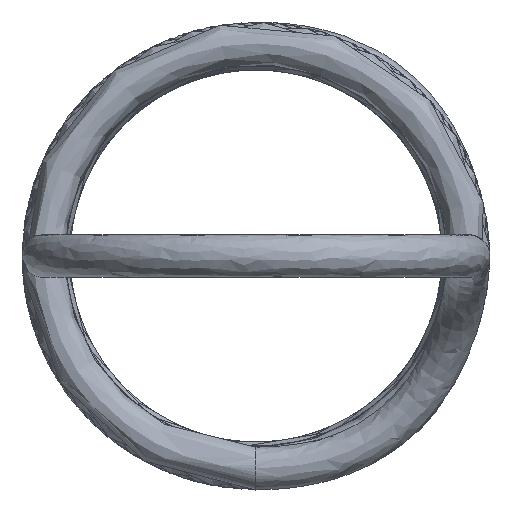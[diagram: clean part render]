
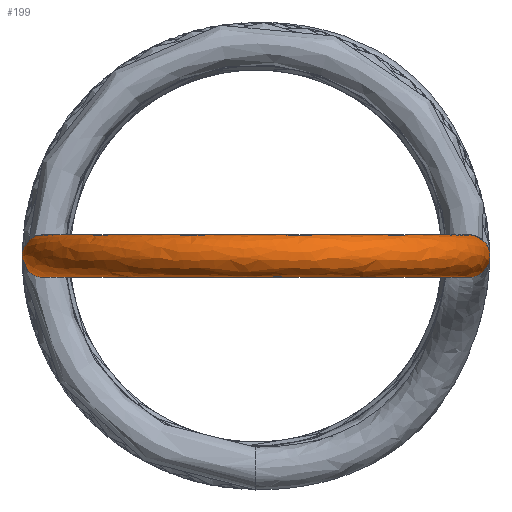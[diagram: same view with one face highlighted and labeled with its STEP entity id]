
A CAD part, front view. The second image highlights one B-rep face of the part: STEP entity #199.
In plain terms, the highlighted free-form (B-spline) face has degree [2, 2] with [9, 7] control points.
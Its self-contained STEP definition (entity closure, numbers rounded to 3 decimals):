
#15=(
BOUNDED_SURFACE()
B_SPLINE_SURFACE(2,2,((#806,#807,#808,#809,#810,#811,#812),(#813,#814,#815,
#816,#817,#818,#819),(#820,#821,#822,#823,#824,#825,#826),(#827,#828,#829,
#830,#831,#832,#833),(#834,#835,#836,#837,#838,#839,#840),(#841,#842,#843,
#844,#845,#846,#847),(#848,#849,#850,#851,#852,#853,#854),(#855,#856,#857,
#858,#859,#860,#861),(#862,#863,#864,#865,#866,#867,#868)),
 .UNSPECIFIED.,.T.,.F.,.F.)
B_SPLINE_SURFACE_WITH_KNOTS((3,2,2,2,3),(3,2,2,3),(0.,1.571,3.142,
4.712,6.283),(0.,1.081,2.162,
3.243),.UNSPECIFIED.)
GEOMETRIC_REPRESENTATION_ITEM()
RATIONAL_B_SPLINE_SURFACE(((1.,0.857,1.,0.857,1.,
0.857,1.),(0.707,0.606,0.707,
0.606,0.707,0.606,0.707),(1.,
0.857,1.,0.857,1.,0.857,1.),(0.707,
0.606,0.707,0.606,0.707,
0.606,0.707),(1.,0.857,1.,0.857,
1.,0.857,1.),(0.707,0.606,0.707,
0.606,0.707,0.606,0.707),
(1.,0.857,1.,0.857,1.,0.857,1.),(0.707,
0.606,0.707,0.606,0.707,0.606,
0.707),(1.,0.857,1.,0.857,1.,0.857,
1.)))
REPRESENTATION_ITEM('')
SURFACE()
);
#22=CIRCLE('',#234,0.275);
#23=CIRCLE('',#235,2.606);
#24=CIRCLE('',#236,0.275);
#37=FACE_OUTER_BOUND('',#48,.T.);
#48=EDGE_LOOP('',(#142,#143,#144,#145));
#85=VERTEX_POINT('',#731);
#88=VERTEX_POINT('',#869);
#106=EDGE_CURVE('',#85,#85,#22,.T.);
#109=EDGE_CURVE('',#85,#88,#23,.T.);
#110=EDGE_CURVE('',#88,#88,#24,.T.);
#142=ORIENTED_EDGE('',*,*,#106,.T.);
#143=ORIENTED_EDGE('',*,*,#109,.T.);
#144=ORIENTED_EDGE('',*,*,#110,.F.);
#145=ORIENTED_EDGE('',*,*,#109,.F.);
#199=ADVANCED_FACE('',(#37),#15,.T.);
#234=AXIS2_PLACEMENT_3D('',#742,#256,#257);
#235=AXIS2_PLACEMENT_3D('',#870,#258,#259);
#236=AXIS2_PLACEMENT_3D('',#871,#260,#261);
#256=DIRECTION('center_axis',(0.,-1.,0.));
#257=DIRECTION('ref_axis',(-0.434,0.,-0.901));
#258=DIRECTION('center_axis',(0.,0.,
-1.));
#259=DIRECTION('ref_axis',(1.,0.,0.));
#260=DIRECTION('center_axis',(0.101,0.995,0.));
#261=DIRECTION('ref_axis',(0.432,-0.044,-0.901));
#731=CARTESIAN_POINT('',(2.606,-33.775,-0.248));
#742=CARTESIAN_POINT('Origin',(2.725,-33.775,0.));
#806=CARTESIAN_POINT('Ctrl Pts',(2.606,-33.775,-0.248));
#807=CARTESIAN_POINT('Ctrl Pts',(2.606,-35.338,-0.248));
#808=CARTESIAN_POINT('Ctrl Pts',(1.226,-36.074,-0.248));
#809=CARTESIAN_POINT('Ctrl Pts',(-0.153,-36.81,-0.248));
#810=CARTESIAN_POINT('Ctrl Pts',(-1.452,-35.939,-0.248));
#811=CARTESIAN_POINT('Ctrl Pts',(-2.75,-35.068,-0.248));
#812=CARTESIAN_POINT('Ctrl Pts',(-2.592,-33.512,-0.248));
#813=CARTESIAN_POINT('Ctrl Pts',(2.853,-33.775,-0.367));
#814=CARTESIAN_POINT('Ctrl Pts',(2.853,-35.487,-0.367));
#815=CARTESIAN_POINT('Ctrl Pts',(1.343,-36.293,-0.367));
#816=CARTESIAN_POINT('Ctrl Pts',(-0.168,-37.098,-0.367));
#817=CARTESIAN_POINT('Ctrl Pts',(-1.59,-36.145,-0.367));
#818=CARTESIAN_POINT('Ctrl Pts',(-3.011,-35.191,-0.367));
#819=CARTESIAN_POINT('Ctrl Pts',(-2.839,-33.487,-0.367));
#820=CARTESIAN_POINT('Ctrl Pts',(2.973,-33.775,-0.119));
#821=CARTESIAN_POINT('Ctrl Pts',(2.973,-35.559,-0.119));
#822=CARTESIAN_POINT('Ctrl Pts',(1.399,-36.398,-0.119));
#823=CARTESIAN_POINT('Ctrl Pts',(-0.175,-37.237,-0.119));
#824=CARTESIAN_POINT('Ctrl Pts',(-1.656,-36.244,-0.119));
#825=CARTESIAN_POINT('Ctrl Pts',(-3.137,-35.25,-0.119));
#826=CARTESIAN_POINT('Ctrl Pts',(-2.958,-33.475,-0.119));
#827=CARTESIAN_POINT('Ctrl Pts',(3.092,-33.775,0.128));
#828=CARTESIAN_POINT('Ctrl Pts',(3.092,-35.63,0.128));
#829=CARTESIAN_POINT('Ctrl Pts',(1.455,-36.503,0.128));
#830=CARTESIAN_POINT('Ctrl Pts',(-0.182,-37.376,0.128));
#831=CARTESIAN_POINT('Ctrl Pts',(-1.723,-36.343,0.128));
#832=CARTESIAN_POINT('Ctrl Pts',(-3.263,-35.309,0.128));
#833=CARTESIAN_POINT('Ctrl Pts',(-3.076,-33.463,0.128));
#834=CARTESIAN_POINT('Ctrl Pts',(2.844,-33.775,0.248));
#835=CARTESIAN_POINT('Ctrl Pts',(2.844,-35.482,0.248));
#836=CARTESIAN_POINT('Ctrl Pts',(1.338,-36.285,0.248));
#837=CARTESIAN_POINT('Ctrl Pts',(-0.167,-37.088,0.248));
#838=CARTESIAN_POINT('Ctrl Pts',(-1.585,-36.137,0.248));
#839=CARTESIAN_POINT('Ctrl Pts',(-3.002,-35.186,0.248));
#840=CARTESIAN_POINT('Ctrl Pts',(-2.83,-33.488,0.248));
#841=CARTESIAN_POINT('Ctrl Pts',(2.597,-33.775,0.367));
#842=CARTESIAN_POINT('Ctrl Pts',(2.597,-35.333,0.367));
#843=CARTESIAN_POINT('Ctrl Pts',(1.222,-36.066,0.367));
#844=CARTESIAN_POINT('Ctrl Pts',(-0.153,-36.799,0.367));
#845=CARTESIAN_POINT('Ctrl Pts',(-1.447,-35.931,0.367));
#846=CARTESIAN_POINT('Ctrl Pts',(-2.74,-35.063,0.367));
#847=CARTESIAN_POINT('Ctrl Pts',(-2.583,-33.513,0.367));
#848=CARTESIAN_POINT('Ctrl Pts',(2.477,-33.775,0.119));
#849=CARTESIAN_POINT('Ctrl Pts',(2.477,-35.261,0.119));
#850=CARTESIAN_POINT('Ctrl Pts',(1.166,-35.961,0.119));
#851=CARTESIAN_POINT('Ctrl Pts',(-0.146,-36.66,0.119));
#852=CARTESIAN_POINT('Ctrl Pts',(-1.38,-35.832,0.119));
#853=CARTESIAN_POINT('Ctrl Pts',(-2.614,-35.004,0.119));
#854=CARTESIAN_POINT('Ctrl Pts',(-2.465,-33.525,0.119));
#855=CARTESIAN_POINT('Ctrl Pts',(2.358,-33.775,-0.128));
#856=CARTESIAN_POINT('Ctrl Pts',(2.358,-35.19,-0.128));
#857=CARTESIAN_POINT('Ctrl Pts',(1.11,-35.856,-0.128));
#858=CARTESIAN_POINT('Ctrl Pts',(-0.139,-36.521,-0.128));
#859=CARTESIAN_POINT('Ctrl Pts',(-1.314,-35.733,-0.128));
#860=CARTESIAN_POINT('Ctrl Pts',(-2.488,-34.945,-0.128));
#861=CARTESIAN_POINT('Ctrl Pts',(-2.346,-33.537,-0.128));
#862=CARTESIAN_POINT('Ctrl Pts',(2.606,-33.775,-0.248));
#863=CARTESIAN_POINT('Ctrl Pts',(2.606,-35.338,-0.248));
#864=CARTESIAN_POINT('Ctrl Pts',(1.226,-36.074,-0.248));
#865=CARTESIAN_POINT('Ctrl Pts',(-0.153,-36.81,-0.248));
#866=CARTESIAN_POINT('Ctrl Pts',(-1.452,-35.939,-0.248));
#867=CARTESIAN_POINT('Ctrl Pts',(-2.75,-35.068,-0.248));
#868=CARTESIAN_POINT('Ctrl Pts',(-2.592,-33.512,-0.248));
#869=CARTESIAN_POINT('',(-2.592,-33.512,-0.248));
#870=CARTESIAN_POINT('Origin',(0.,-33.775,-0.248));
#871=CARTESIAN_POINT('Origin',(-2.711,-33.5,0.));
